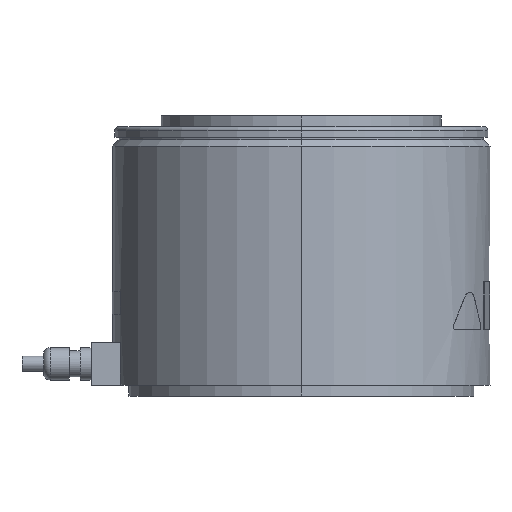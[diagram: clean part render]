
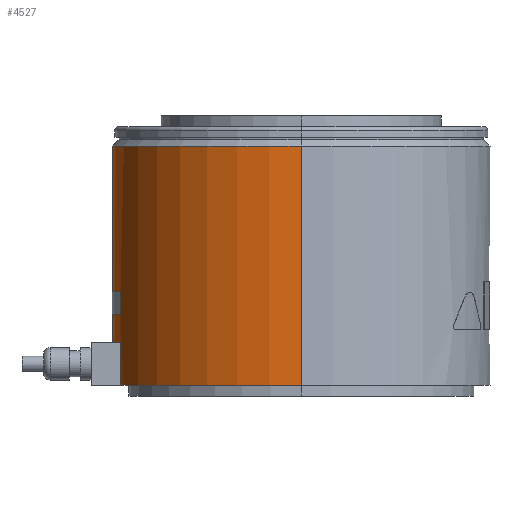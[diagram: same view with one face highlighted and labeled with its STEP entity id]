
A CAD part, left-side view. The second image highlights one B-rep face of the part: STEP entity #4527.
In plain terms, the highlighted cylindrical face has radius 87.5 mm (diameter 175 mm), a partial arc.
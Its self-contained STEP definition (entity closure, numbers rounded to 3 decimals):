
#15 = AXIS2_PLACEMENT_3D ( 'NONE', #3197, #3200, #3199 ) ;
#92 = EDGE_CURVE ( 'NONE', #5480, #5501, #4183, .T. ) ;
#96 = EDGE_CURVE ( 'NONE', #5501, #5479, #4185, .T. ) ;
#237 = EDGE_CURVE ( 'NONE', #5475, #5703, #4937, .T. ) ;
#244 = EDGE_CURVE ( 'NONE', #5483, #5493, #4950, .T. ) ;
#248 = EDGE_CURVE ( 'NONE', #5481, #5493, #4942, .T. ) ;
#249 = EDGE_CURVE ( 'NONE', #5498, #5481, #4957, .T. ) ;
#250 = EDGE_CURVE ( 'NONE', #5483, #5498, #4954, .T. ) ;
#251 = EDGE_CURVE ( 'NONE', #5479, #5482, #4960, .T. ) ;
#252 = EDGE_CURVE ( 'NONE', #5482, #5480, #4959, .T. ) ;
#253 = EDGE_CURVE ( 'NONE', #5475, #5105, #4955, .T. ) ;
#254 = EDGE_CURVE ( 'NONE', #5703, #5474, #4958, .T. ) ;
#256 = EDGE_CURVE ( 'NONE', #5105, #5474, #4964, .T. ) ;
#455 = AXIS2_PLACEMENT_3D ( 'NONE', #1392, #1393, #1394 ) ;
#527 = AXIS2_PLACEMENT_3D ( 'NONE', #1755, #1756, #1757 ) ;
#529 = AXIS2_PLACEMENT_3D ( 'NONE', #1771, #1772, #1773 ) ;
#533 = AXIS2_PLACEMENT_3D ( 'NONE', #1782, #1784, #1785 ) ;
#534 = AXIS2_PLACEMENT_3D ( 'NONE', #1780, #1788, #1789 ) ;
#535 = AXIS2_PLACEMENT_3D ( 'NONE', #1793, #1800, #1801 ) ;
#932 = FACE_BOUND ( 'NONE', #5420, .T. ) ;
#936 = CYLINDRICAL_SURFACE ( 'NONE', #15, 87.5 ) ;
#940 = FACE_BOUND ( 'NONE', #5428, .T. ) ;
#942 = FACE_OUTER_BOUND ( 'NONE', #5429, .T. ) ;
#1392 = CARTESIAN_POINT ( 'NONE',  ( 0., 0., 38. ) ) ;
#1393 = DIRECTION ( 'NONE',  ( 0., 0., 1. ) ) ;
#1394 = DIRECTION ( 'NONE',  ( -1., 0., 0. ) ) ;
#1400 = CARTESIAN_POINT ( 'NONE',  ( -25., 83.853, 0. ) ) ;
#1403 = DIRECTION ( 'NONE',  ( 0., 0., 1. ) ) ;
#1755 = CARTESIAN_POINT ( 'NONE',  ( 0., 0., 116. ) ) ;
#1756 = DIRECTION ( 'NONE',  ( 0., 0., -1. ) ) ;
#1757 = DIRECTION ( 'NONE',  ( -1., 0., 0. ) ) ;
#1771 = CARTESIAN_POINT ( 'NONE',  ( 0., 0., 6. ) ) ;
#1772 = DIRECTION ( 'NONE',  ( 0., 0., 1. ) ) ;
#1773 = DIRECTION ( 'NONE',  ( -1., 0., 0. ) ) ;
#1778 = CARTESIAN_POINT ( 'NONE',  ( -25., 83.853, 0. ) ) ;
#1780 = CARTESIAN_POINT ( 'NONE',  ( 0., 0., 48.5 ) ) ;
#1781 = DIRECTION ( 'NONE',  ( 0., 0., -1. ) ) ;
#1782 = CARTESIAN_POINT ( 'NONE',  ( 0., 0., 25. ) ) ;
#1783 = CARTESIAN_POINT ( 'NONE',  ( 25., 83.853, 0. ) ) ;
#1784 = DIRECTION ( 'NONE',  ( 0., 0., 1. ) ) ;
#1785 = DIRECTION ( 'NONE',  ( -1., 0., 0. ) ) ;
#1786 = CARTESIAN_POINT ( 'NONE',  ( 25., 83.853, 0. ) ) ;
#1787 = DIRECTION ( 'NONE',  ( 0., 0., 1. ) ) ;
#1788 = DIRECTION ( 'NONE',  ( 0., 0., -1. ) ) ;
#1789 = DIRECTION ( 'NONE',  ( 1., 0., 0. ) ) ;
#1790 = CARTESIAN_POINT ( 'NONE',  ( -87.5, 0., 0. ) ) ;
#1791 = DIRECTION ( 'NONE',  ( 0., 0., -1. ) ) ;
#1792 = CARTESIAN_POINT ( 'NONE',  ( 87.5, 0., 0. ) ) ;
#1793 = CARTESIAN_POINT ( 'NONE',  ( 0., 0., 5. ) ) ;
#1794 = DIRECTION ( 'NONE',  ( 0., 0., -1. ) ) ;
#1796 = DIRECTION ( 'NONE',  ( 0., 0., -1. ) ) ;
#1800 = DIRECTION ( 'NONE',  ( 0., 0., -1. ) ) ;
#1801 = DIRECTION ( 'NONE',  ( -1., 0., 0. ) ) ;
#3197 = CARTESIAN_POINT ( 'NONE',  ( 0., 0., 0. ) ) ;
#3199 = DIRECTION ( 'NONE',  ( -1., 0., 0. ) ) ;
#3200 = DIRECTION ( 'NONE',  ( 0., 0., -1. ) ) ;
#3646 = CARTESIAN_POINT ( 'NONE',  ( -87.5, 0., 5. ) ) ;
#3655 = CARTESIAN_POINT ( 'NONE',  ( -25., 83.853, 25. ) ) ;
#3657 = CARTESIAN_POINT ( 'NONE',  ( -87.5, 0., 116. ) ) ;
#3659 = CARTESIAN_POINT ( 'NONE',  ( -25., 83.853, 48.5 ) ) ;
#3660 = CARTESIAN_POINT ( 'NONE',  ( 87.5, 0., 5. ) ) ;
#3663 = CARTESIAN_POINT ( 'NONE',  ( 25., 83.853, 38. ) ) ;
#3664 = CARTESIAN_POINT ( 'NONE',  ( 25., 83.853, 48.5 ) ) ;
#3665 = CARTESIAN_POINT ( 'NONE',  ( 25., 83.853, 6. ) ) ;
#3675 = CARTESIAN_POINT ( 'NONE',  ( -25., 83.853, 6. ) ) ;
#3680 = CARTESIAN_POINT ( 'NONE',  ( 25., 83.853, 25. ) ) ;
#3683 = CARTESIAN_POINT ( 'NONE',  ( -25., 83.853, 38. ) ) ;
#3882 = CARTESIAN_POINT ( 'NONE',  ( 87.5, 0., 116. ) ) ;
#3918 = ORIENTED_EDGE ( 'NONE', *, *, #254, .T. ) ;
#3919 = ORIENTED_EDGE ( 'NONE', *, *, #237, .T. ) ;
#3920 = ORIENTED_EDGE ( 'NONE', *, *, #251, .F. ) ;
#3921 = ORIENTED_EDGE ( 'NONE', *, *, #252, .F. ) ;
#3922 = ORIENTED_EDGE ( 'NONE', *, *, #92, .F. ) ;
#3923 = ORIENTED_EDGE ( 'NONE', *, *, #96, .F. ) ;
#3924 = ORIENTED_EDGE ( 'NONE', *, *, #250, .T. ) ;
#3925 = ORIENTED_EDGE ( 'NONE', *, *, #244, .F. ) ;
#3926 = ORIENTED_EDGE ( 'NONE', *, *, #248, .T. ) ;
#3927 = ORIENTED_EDGE ( 'NONE', *, *, #249, .T. ) ;
#3946 = ORIENTED_EDGE ( 'NONE', *, *, #256, .F. ) ;
#3949 = ORIENTED_EDGE ( 'NONE', *, *, #253, .F. ) ;
#4183 = CIRCLE ( 'NONE', #455, 87.5 ) ;
#4185 = LINE ( 'NONE', #1400, #4188 ) ;
#4188 = VECTOR ( 'NONE', #1403, 1000. ) ;
#4527 = ADVANCED_FACE ( 'NONE', ( #932, #940, #942 ), #936, .T. ) ;
#4937 = CIRCLE ( 'NONE', #527, 87.5 ) ;
#4942 = LINE ( 'NONE', #1778, #4953 ) ;
#4948 = VECTOR ( 'NONE', #1787, 1000. ) ;
#4950 = CIRCLE ( 'NONE', #529, 87.5 ) ;
#4953 = VECTOR ( 'NONE', #1781, 1000. ) ;
#4954 = LINE ( 'NONE', #1786, #4948 ) ;
#4955 = LINE ( 'NONE', #1790, #4961 ) ;
#4956 = VECTOR ( 'NONE', #1791, 1000. ) ;
#4957 = CIRCLE ( 'NONE', #533, 87.5 ) ;
#4958 = LINE ( 'NONE', #1792, #4962 ) ;
#4959 = LINE ( 'NONE', #1783, #4956 ) ;
#4960 = CIRCLE ( 'NONE', #534, 87.5 ) ;
#4961 = VECTOR ( 'NONE', #1794, 1000. ) ;
#4962 = VECTOR ( 'NONE', #1796, 1000. ) ;
#4964 = CIRCLE ( 'NONE', #535, 87.5 ) ;
#5105 = VERTEX_POINT ( 'NONE', #3646 ) ;
#5420 = EDGE_LOOP ( 'NONE', ( #3927, #3926, #3925, #3924 ) ) ;
#5428 = EDGE_LOOP ( 'NONE', ( #3923, #3922, #3921, #3920 ) ) ;
#5429 = EDGE_LOOP ( 'NONE', ( #3919, #3918, #3946, #3949 ) ) ;
#5474 = VERTEX_POINT ( 'NONE', #3660 ) ;
#5475 = VERTEX_POINT ( 'NONE', #3657 ) ;
#5479 = VERTEX_POINT ( 'NONE', #3659 ) ;
#5480 = VERTEX_POINT ( 'NONE', #3663 ) ;
#5481 = VERTEX_POINT ( 'NONE', #3655 ) ;
#5482 = VERTEX_POINT ( 'NONE', #3664 ) ;
#5483 = VERTEX_POINT ( 'NONE', #3665 ) ;
#5493 = VERTEX_POINT ( 'NONE', #3675 ) ;
#5498 = VERTEX_POINT ( 'NONE', #3680 ) ;
#5501 = VERTEX_POINT ( 'NONE', #3683 ) ;
#5703 = VERTEX_POINT ( 'NONE', #3882 ) ;
